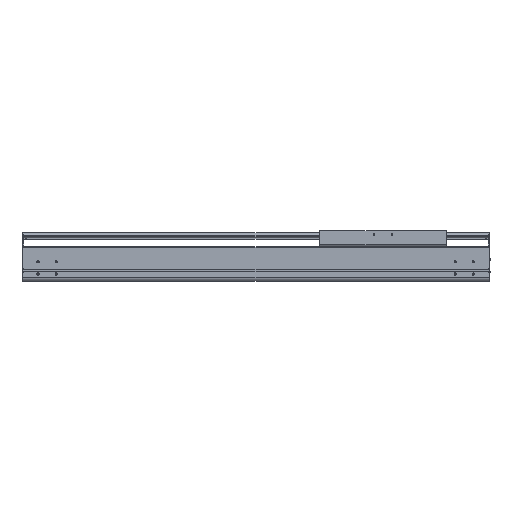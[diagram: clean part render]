
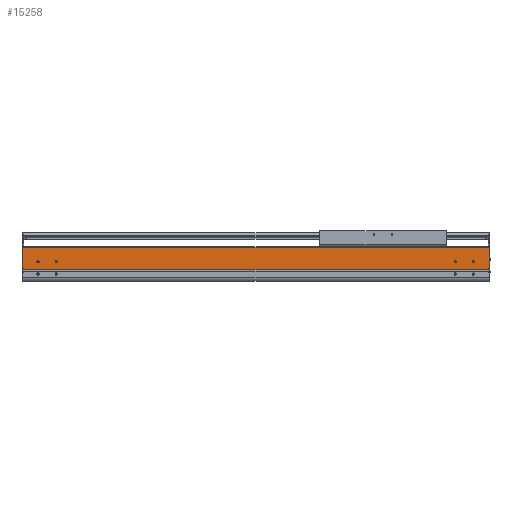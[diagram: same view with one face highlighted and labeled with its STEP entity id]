
A CAD part, top view. The second image highlights one B-rep face of the part: STEP entity #15258.
In plain terms, the highlighted planar face has unit normal (0, 0, 1).
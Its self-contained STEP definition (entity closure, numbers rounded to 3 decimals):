
#686=DIRECTION('',(1.,0.,0.));
#687=VECTOR('',#686,2.);
#688=CARTESIAN_POINT('',(-1286.,34.65,107.));
#689=LINE('',#688,#687);
#690=CARTESIAN_POINT('',(-42.,54.,107.));
#691=DIRECTION('',(0.,0.,-1.));
#692=DIRECTION('',(1.,0.,0.));
#693=AXIS2_PLACEMENT_3D('',#690,#691,#692);
#695=CARTESIAN_POINT('',(-42.,54.,107.));
#696=DIRECTION('',(0.,0.,-1.));
#697=DIRECTION('',(-1.,0.,0.));
#698=AXIS2_PLACEMENT_3D('',#695,#696,#697);
#700=CARTESIAN_POINT('',(-92.,54.,107.));
#701=DIRECTION('',(0.,0.,-1.));
#702=DIRECTION('',(1.,0.,0.));
#703=AXIS2_PLACEMENT_3D('',#700,#701,#702);
#705=CARTESIAN_POINT('',(-92.,54.,107.));
#706=DIRECTION('',(0.,0.,-1.));
#707=DIRECTION('',(-1.,0.,0.));
#708=AXIS2_PLACEMENT_3D('',#705,#706,#707);
#710=CARTESIAN_POINT('',(-1244.,54.,107.));
#711=DIRECTION('',(0.,0.,-1.));
#712=DIRECTION('',(1.,0.,0.));
#713=AXIS2_PLACEMENT_3D('',#710,#711,#712);
#715=CARTESIAN_POINT('',(-1244.,54.,107.));
#716=DIRECTION('',(0.,0.,-1.));
#717=DIRECTION('',(-1.,0.,0.));
#718=AXIS2_PLACEMENT_3D('',#715,#716,#717);
#720=CARTESIAN_POINT('',(-1194.,54.,107.));
#721=DIRECTION('',(0.,0.,-1.));
#722=DIRECTION('',(1.,0.,0.));
#723=AXIS2_PLACEMENT_3D('',#720,#721,#722);
#725=CARTESIAN_POINT('',(-1194.,54.,107.));
#726=DIRECTION('',(0.,0.,-1.));
#727=DIRECTION('',(-1.,0.,0.));
#728=AXIS2_PLACEMENT_3D('',#725,#726,#727);
#730=DIRECTION('',(0.,-1.,0.));
#731=VECTOR('',#730,2.55);
#732=CARTESIAN_POINT('',(-1284.,34.65,107.));
#733=LINE('',#732,#731);
#734=DIRECTION('',(0.,-1.,0.));
#735=VECTOR('',#734,58.85);
#736=CARTESIAN_POINT('',(-1286.,93.5,107.));
#737=LINE('',#736,#735);
#738=DIRECTION('',(0.,1.,0.));
#739=VECTOR('',#738,58.85);
#740=CARTESIAN_POINT('',(2.,34.65,107.));
#741=LINE('',#740,#739);
#742=DIRECTION('',(0.,1.,0.));
#743=VECTOR('',#742,2.55);
#744=CARTESIAN_POINT('',(0.,32.1,107.));
#745=LINE('',#744,#743);
#850=DIRECTION('',(-1.,0.,0.));
#851=VECTOR('',#850,1288.);
#852=CARTESIAN_POINT('',(2.,93.5,107.));
#853=LINE('',#852,#851);
#1702=DIRECTION('',(1.,0.,0.));
#1703=VECTOR('',#1702,2.);
#1704=CARTESIAN_POINT('',(0.,34.65,107.));
#1705=LINE('',#1704,#1703);
#10792=DIRECTION('',(1.,0.,0.));
#10793=VECTOR('',#10792,1284.);
#10794=CARTESIAN_POINT('',(-1284.,32.1,107.));
#10795=LINE('',#10794,#10793);
#11329=CARTESIAN_POINT('',(-1286.,34.65,107.));
#11330=VERTEX_POINT('',#11329);
#11331=CARTESIAN_POINT('',(-1286.,93.5,107.));
#11332=VERTEX_POINT('',#11331);
#11553=CARTESIAN_POINT('',(-1284.,32.1,107.));
#11554=VERTEX_POINT('',#11553);
#11625=CARTESIAN_POINT('',(0.,32.1,107.));
#11626=VERTEX_POINT('',#11625);
#12005=CARTESIAN_POINT('',(-39.5,54.,107.));
#12006=CARTESIAN_POINT('',(-44.5,54.,107.));
#12007=VERTEX_POINT('',#12005);
#12008=VERTEX_POINT('',#12006);
#12009=CARTESIAN_POINT('',(-89.5,54.,107.));
#12010=CARTESIAN_POINT('',(-94.5,54.,107.));
#12011=VERTEX_POINT('',#12009);
#12012=VERTEX_POINT('',#12010);
#12013=CARTESIAN_POINT('',(-1241.5,54.,107.));
#12014=CARTESIAN_POINT('',(-1246.5,54.,107.));
#12015=VERTEX_POINT('',#12013);
#12016=VERTEX_POINT('',#12014);
#12017=CARTESIAN_POINT('',(-1191.5,54.,107.));
#12018=CARTESIAN_POINT('',(-1196.5,54.,107.));
#12019=VERTEX_POINT('',#12017);
#12020=VERTEX_POINT('',#12018);
#13080=CARTESIAN_POINT('',(2.,34.65,107.));
#13081=VERTEX_POINT('',#13080);
#13082=CARTESIAN_POINT('',(2.,93.5,107.));
#13083=VERTEX_POINT('',#13082);
#13302=CARTESIAN_POINT('',(0.,34.65,107.));
#13303=VERTEX_POINT('',#13302);
#13614=CARTESIAN_POINT('',(-1284.,34.65,107.));
#13615=VERTEX_POINT('',#13614);
#15214=CARTESIAN_POINT('',(-642.,62.8,107.));
#15215=DIRECTION('',(0.,0.,1.));
#15216=DIRECTION('',(0.,-1.,0.));
#15217=AXIS2_PLACEMENT_3D('',#15214,#15215,#15216);
#15218=PLANE('',#15217);
#15219=ORIENTED_EDGE('',*,*,#14577,.F.);
#15220=ORIENTED_EDGE('',*,*,#15209,.F.);
#15221=ORIENTED_EDGE('',*,*,#14452,.F.);
#15223=ORIENTED_EDGE('',*,*,#15222,.F.);
#15225=ORIENTED_EDGE('',*,*,#15224,.F.);
#15227=ORIENTED_EDGE('',*,*,#15226,.F.);
#15229=ORIENTED_EDGE('',*,*,#15228,.F.);
#15231=ORIENTED_EDGE('',*,*,#15230,.F.);
#15232=EDGE_LOOP('',(#15219,#15220,#15221,#15223,#15225,#15227,#15229,#15231));
#15233=FACE_OUTER_BOUND('',#15232,.F.);
#15235=ORIENTED_EDGE('',*,*,#15234,.F.);
#15237=ORIENTED_EDGE('',*,*,#15236,.F.);
#15238=EDGE_LOOP('',(#15235,#15237));
#15239=FACE_BOUND('',#15238,.F.);
#15241=ORIENTED_EDGE('',*,*,#15240,.F.);
#15243=ORIENTED_EDGE('',*,*,#15242,.F.);
#15244=EDGE_LOOP('',(#15241,#15243));
#15245=FACE_BOUND('',#15244,.F.);
#15247=ORIENTED_EDGE('',*,*,#15246,.F.);
#15249=ORIENTED_EDGE('',*,*,#15248,.F.);
#15250=EDGE_LOOP('',(#15247,#15249));
#15251=FACE_BOUND('',#15250,.F.);
#15253=ORIENTED_EDGE('',*,*,#15252,.F.);
#15255=ORIENTED_EDGE('',*,*,#15254,.F.);
#15256=EDGE_LOOP('',(#15253,#15255));
#15257=FACE_BOUND('',#15256,.F.);
#15258=ADVANCED_FACE('',(#15233,#15239,#15245,#15251,#15257),#15218,.T.);
#694=CIRCLE('',#693,2.5);
#699=CIRCLE('',#698,2.5);
#704=CIRCLE('',#703,2.5);
#709=CIRCLE('',#708,2.5);
#714=CIRCLE('',#713,2.5);
#719=CIRCLE('',#718,2.5);
#724=CIRCLE('',#723,2.5);
#729=CIRCLE('',#728,2.5);
#14452=EDGE_CURVE('',#11332,#11330,#737,.T.);
#14577=EDGE_CURVE('',#13615,#11554,#733,.T.);
#15209=EDGE_CURVE('',#11330,#13615,#689,.T.);
#15222=EDGE_CURVE('',#13083,#11332,#853,.T.);
#15224=EDGE_CURVE('',#13081,#13083,#741,.T.);
#15226=EDGE_CURVE('',#13303,#13081,#1705,.T.);
#15228=EDGE_CURVE('',#11626,#13303,#745,.T.);
#15230=EDGE_CURVE('',#11554,#11626,#10795,.T.);
#15234=EDGE_CURVE('',#12011,#12012,#704,.T.);
#15236=EDGE_CURVE('',#12012,#12011,#709,.T.);
#15240=EDGE_CURVE('',#12015,#12016,#714,.T.);
#15242=EDGE_CURVE('',#12016,#12015,#719,.T.);
#15246=EDGE_CURVE('',#12019,#12020,#724,.T.);
#15248=EDGE_CURVE('',#12020,#12019,#729,.T.);
#15252=EDGE_CURVE('',#12007,#12008,#694,.T.);
#15254=EDGE_CURVE('',#12008,#12007,#699,.T.);
